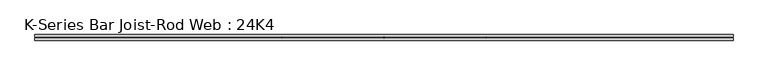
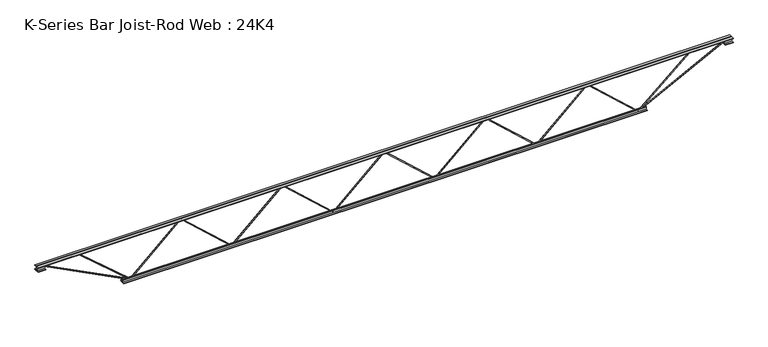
"""IFC4 building model written with IfcOpenShell, lengths in millimetres: beam geometry, K-Series Bar Joist-Rod Web : 24K4."""

from ifc_helpers import new_model, si_unit, frame, origin, place, context, project, spatial, polyline, outline, extrude, source, transform, mapped, element, save


def k_series_bar_joist_rod_web_24k4_98bbd377(model_context):
    return source(origin(), model_context, "Body", "SweptSolid", [
        extrude(outline(polyline([(-293.6875, 662.78125), (-303.2125, 662.78125), (-303.2125, 667.7977947), (293.6875, 1324.2290447), (293.6875, 1326.8959553), (-303.2125, 1983.3272053), (-303.2125, 1988.34375), (-293.6875, 1988.34375), (-293.6875, 1987.0102947), (303.2125, 1330.5790447), (303.2125, 1320.5459553), (-293.6875, 664.1147053), (-293.6875, 662.78125)])), frame((0.0, -4.7625, 0.0), z_axis=(0.0, 1.0, 0.0), x_axis=(0.0, 0.0, 1.0)), (0.0, 0.0, 1.0), 9.525),
        extrude(outline(polyline([(-293.6875, -662.78125), (-303.2125, -662.78125), (-303.2125, -657.7647053), (293.6875, -1.3334553), (293.6875, 1.3334553), (-303.2125, 657.7647053), (-303.2125, 662.78125), (-293.6875, 662.78125), (-293.6875, 661.4477947), (303.2125, 5.0165447), (303.2125, -5.0165447), (-293.6875, -661.4477947), (-293.6875, -662.78125)])), frame((0.0, -4.7625, 0.0), z_axis=(0.0, 1.0, 0.0), x_axis=(0.0, 0.0, 1.0)), (0.0, 0.0, 1.0), 9.525),
        extrude(outline(polyline([(-293.6875, -1988.34375), (-303.2125, -1988.34375), (-303.2125, -1983.3272053), (293.6875, -1326.8959553), (293.6875, -1324.2290447), (-303.2125, -667.7977947), (-303.2125, -662.78125), (-293.6875, -662.78125), (-293.6875, -664.1147053), (303.2125, -1320.5459553), (303.2125, -1330.5790447), (-293.6875, -1987.0102947), (-293.6875, -1988.34375)])), frame((0.0, -4.7625, 0.0), z_axis=(0.0, 1.0, 0.0), x_axis=(0.0, 0.0, 1.0)), (0.0, 0.0, 1.0), 9.525),
        extrude(outline(polyline([(-293.6875, 1988.34375), (-303.2125, 1988.34375), (-303.2125, 1993.3602947), (293.6875, 2649.7915447), (293.6875, 2652.4584553), (-303.2125, 3308.8897053), (-303.2125, 3313.90625), (-293.6875, 3313.90625), (-293.6875, 3312.5727947), (303.2125, 2656.1415447), (303.2125, 2646.1084553), (-293.6875, 1989.6772053), (-293.6875, 1988.34375)])), frame((0.0, -4.7625, 0.0), z_axis=(0.0, 1.0, 0.0), x_axis=(0.0, 0.0, 1.0)), (0.0, 0.0, 1.0), 9.525),
        extrude(outline(polyline([(-293.6875, -3313.90625), (-303.2125, -3313.90625), (-303.2125, -3308.8897053), (293.6875, -2652.4584553), (293.6875, -2649.7915447), (-303.2125, -1993.3602947), (-303.2125, -1988.34375), (-293.6875, -1988.34375), (-293.6875, -1989.6772053), (303.2125, -2646.1084553), (303.2125, -2656.1415447), (-293.6875, -3312.5727947), (-293.6875, -3313.90625)])), frame((0.0, -4.7625, 0.0), z_axis=(0.0, 1.0, 0.0), x_axis=(0.0, 0.0, 1.0)), (0.0, 0.0, 1.0), 9.525),
        extrude(outline(polyline([(4.7625, 304.8), (36.5125, 304.8), (36.5125, 298.45), (11.1125, 298.45), (11.1125, 273.05), (4.7625, 273.05), (4.7625, 304.8)])), frame((-4533.10625, 0.0, 0.0), z_axis=(1.0, 0.0, 0.0), x_axis=(0.0, 1.0, 0.0)), (0.0, 0.0, 1.0), 9066.2125),
        extrude(outline(polyline([(-4.7625, 304.8), (-4.7625, 273.05), (-11.1125, 273.05), (-11.1125, 298.45), (-36.5125, 298.45), (-36.5125, 304.8), (-4.7625, 304.8)])), frame((-4533.10625, 0.0, 0.0), z_axis=(1.0, 0.0, 0.0), x_axis=(0.0, 1.0, 0.0)), (0.0, 0.0, 1.0), 9066.2125),
        extrude(outline(polyline([(-4.7625, 241.3), (-36.5125, 241.3), (-36.5125, 247.65), (-11.1125, 247.65), (-11.1125, 273.05), (-4.7625, 273.05), (-4.7625, 241.3)])), frame((-4533.10625, 0.0, 0.0), z_axis=(1.0, 0.0, 0.0), x_axis=(0.0, 1.0, 0.0)), (0.0, 0.0, 1.0), 101.6),
        extrude(outline(polyline([(36.5125, 241.3), (4.7625, 241.3), (4.7625, 273.05), (11.1125, 273.05), (11.1125, 247.65), (36.5125, 247.65), (36.5125, 241.3)])), frame((-4533.10625, 0.0, 0.0), z_axis=(1.0, 0.0, 0.0), x_axis=(0.0, 1.0, 0.0)), (0.0, 0.0, 1.0), 101.6),
        extrude(outline(polyline([(4.7625, 241.3), (4.7625, 273.05), (11.1125, 273.05), (11.1125, 247.65), (36.5125, 247.65), (36.5125, 241.3), (4.7625, 241.3)])), frame((4431.50625, 0.0, 0.0), z_axis=(1.0, 0.0, 0.0), x_axis=(0.0, 1.0, 0.0)), (0.0, 0.0, 1.0), 101.6),
        extrude(outline(polyline([(-4.7625, 241.3), (-36.5125, 241.3), (-36.5125, 247.65), (-11.1125, 247.65), (-11.1125, 273.05), (-4.7625, 273.05), (-4.7625, 241.3)])), frame((4431.50625, 0.0, 0.0), z_axis=(1.0, 0.0, 0.0), x_axis=(0.0, 1.0, 0.0)), (0.0, 0.0, 1.0), 101.6),
        extrude(outline(polyline([(4.7625, -304.8), (4.7625, -273.05), (11.1125, -273.05), (11.1125, -298.45), (36.5125, -298.45), (36.5125, -304.8), (4.7625, -304.8)])), frame((-3415.50625, 0.0, 0.0), z_axis=(1.0, 0.0, 0.0), x_axis=(0.0, 1.0, 0.0)), (0.0, 0.0, 1.0), 6831.0125),
        extrude(outline(polyline([(-4.7625, -304.8), (-36.5125, -304.8), (-36.5125, -298.45), (-11.1125, -298.45), (-11.1125, -273.05), (-4.7625, -273.05), (-4.7625, -304.8)])), frame((-3415.50625, 0.0, 0.0), z_axis=(1.0, 0.0, 0.0), x_axis=(0.0, 1.0, 0.0)), (0.0, 0.0, 1.0), 6831.0125),
        extrude(outline(polyline([(0.0, -9.525), (0.0, 0.0), (1255.2457966, 0.0), (1255.2457966, -9.525), (0.0, -9.525)])), frame((-4433.6745654, 4.7625, 268.8097388), z_axis=(0.4552893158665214, 0.0, 0.8903435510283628), x_axis=(0.8903435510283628, 0.0, -0.4552893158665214)), (0.0, 0.0, 1.0), 9.525),
        extrude(outline(polyline([(0.0, -9.525), (0.0, 0.0), (875.1521213, 0.0), (875.1521213, -9.525), (0.0, -9.525)])), frame((-3979.7975522, 4.7625, 269.4432034), z_axis=(0.6530293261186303, 0.0, 0.7573326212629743), x_axis=(0.7573326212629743, 0.0, -0.6530293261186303)), (0.0, 0.0, 1.0), 9.525),
        extrude(outline(polyline([(0.0, -9.525), (0.0, 0.0), (1255.2457966, 0.0), (1255.2457966, -9.525), (0.0, -9.525)])), frame((4433.6745654, -4.7625, 268.8097388), z_axis=(-0.4552893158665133, 0.0, 0.890343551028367), x_axis=(-0.890343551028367, 0.0, -0.4552893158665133)), (0.0, 0.0, 1.0), 9.525),
        extrude(outline(polyline([(0.0, -9.525), (0.0, 0.0), (875.1521213, 0.0), (875.1521213, -9.525), (0.0, -9.525)])), frame((3979.7975522, -4.7625, 269.4432034), z_axis=(-0.6530293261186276, 0.0, 0.7573326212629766), x_axis=(-0.7573326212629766, 0.0, -0.6530293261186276)), (0.0, 0.0, 1.0), 9.525),
    ])


if __name__ == "__main__":
    model = new_model("IFC4")
    model_context = context("Model", 3, world=origin())
    ifc_project = project(units=[si_unit("LENGTHUNIT", "METRE", prefix="MILLI")], contexts=[model_context])
    site = spatial("IfcSite", under=ifc_project)
    building = spatial("IfcBuilding", under=site)
    placement = place(None, origin())
    k_series_bar_joist_rod_web_24k4_shape = k_series_bar_joist_rod_web_24k4_98bbd377(model_context)
    element("IfcBeam", 1, ObjectType="K-Series Bar Joist-Rod Web : 24K4", at=placement, inside=building, context=model_context, shape_type="MappedRepresentation", body=[
        mapped(k_series_bar_joist_rod_web_24k4_shape, transform((0.0, 0.0, 0.0), x_axis=(1.0, 0.0, 0.0), y_axis=(0.0, 1.0, 0.0), z_axis=(0.0, 0.0, 1.0))),
    ])
    save(model, "model.ifc")
